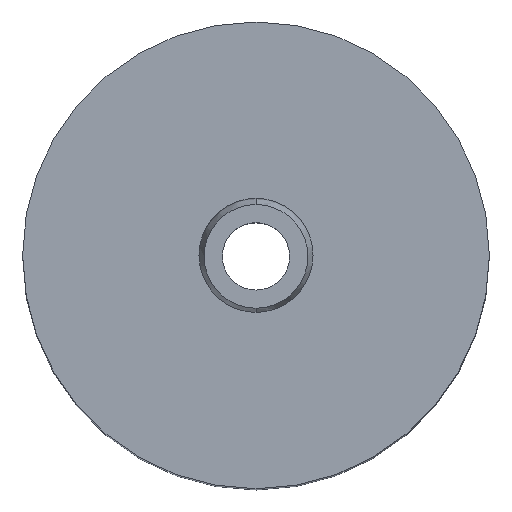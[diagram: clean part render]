
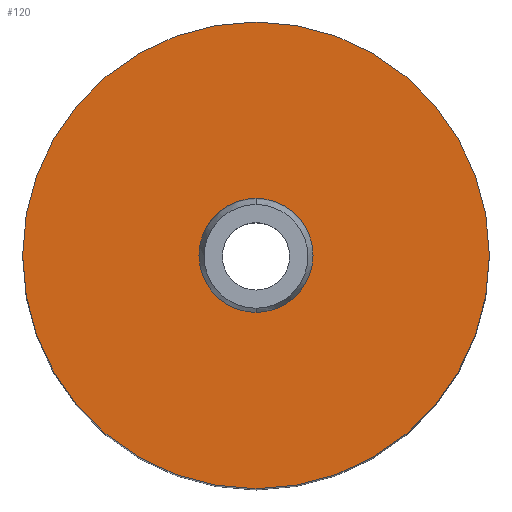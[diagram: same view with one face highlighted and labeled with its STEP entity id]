
A CAD part, top view. The second image highlights one B-rep face of the part: STEP entity #120.
In plain terms, the highlighted planar face has unit normal (0, 0, 1).
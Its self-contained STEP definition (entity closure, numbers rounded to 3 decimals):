
#104=PLANE('',#373);
#109=FACE_BOUND('',#163,.T.);
#110=FACE_BOUND('',#164,.T.);
#120=ADVANCED_FACE('',(#109,#110),#104,.T.);
#163=EDGE_LOOP('',(#221,#222));
#164=EDGE_LOOP('',(#223,#224));
#180=CIRCLE('',#361,45.);
#181=CIRCLE('',#363,45.);
#185=CIRCLE('',#369,11.);
#186=CIRCLE('',#371,11.);
#221=ORIENTED_EDGE('',*,*,#298,.F.);
#222=ORIENTED_EDGE('',*,*,#299,.F.);
#223=ORIENTED_EDGE('',*,*,#306,.T.);
#224=ORIENTED_EDGE('',*,*,#304,.T.);
#273=VERTEX_POINT('',#498);
#276=VERTEX_POINT('',#503);
#279=VERTEX_POINT('',#515);
#280=VERTEX_POINT('',#517);
#298=EDGE_CURVE('',#276,#273,#180,.T.);
#299=EDGE_CURVE('',#273,#276,#181,.T.);
#304=EDGE_CURVE('',#280,#279,#185,.T.);
#306=EDGE_CURVE('',#279,#280,#186,.T.);
#361=AXIS2_PLACEMENT_3D('',#504,#406,#407);
#363=AXIS2_PLACEMENT_3D('',#506,#410,#411);
#369=AXIS2_PLACEMENT_3D('',#516,#423,#424);
#371=AXIS2_PLACEMENT_3D('',#520,#428,#429);
#373=AXIS2_PLACEMENT_3D('',#522,#432,#433);
#406=DIRECTION('',(0.,0.,-1.));
#407=DIRECTION('',(1.,0.,0.));
#410=DIRECTION('',(0.,0.,-1.));
#411=DIRECTION('',(-1.,0.,0.));
#423=DIRECTION('',(0.,0.,-1.));
#424=DIRECTION('',(1.,0.,0.));
#428=DIRECTION('',(0.,0.,-1.));
#429=DIRECTION('',(-1.,0.,0.));
#432=DIRECTION('',(0.,0.,1.));
#433=DIRECTION('',(-1.,0.,0.));
#498=CARTESIAN_POINT('',(0.,45.,140.));
#503=CARTESIAN_POINT('',(0.,-45.,140.));
#504=CARTESIAN_POINT('',(0.,0.,140.));
#506=CARTESIAN_POINT('',(0.,0.,140.));
#515=CARTESIAN_POINT('',(0.,11.,140.));
#516=CARTESIAN_POINT('',(0.,0.,140.));
#517=CARTESIAN_POINT('',(0.,-11.,140.));
#520=CARTESIAN_POINT('',(0.,0.,140.));
#522=CARTESIAN_POINT('',(0.,0.,140.));
